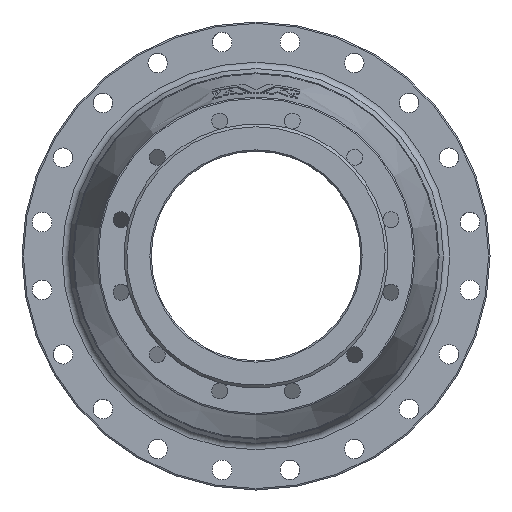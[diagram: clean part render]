
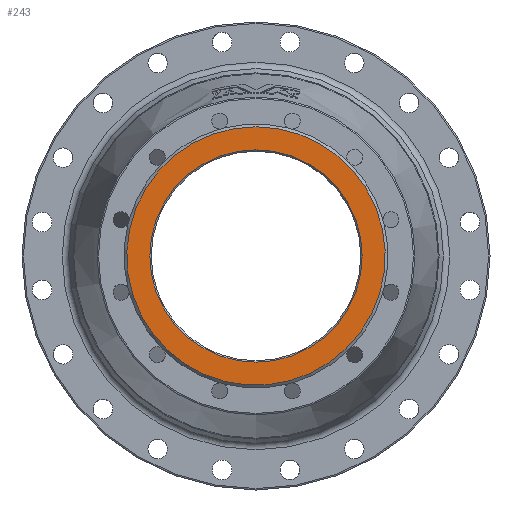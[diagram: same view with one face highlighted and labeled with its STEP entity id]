
A CAD part, left-side view. The second image highlights one B-rep face of the part: STEP entity #243.
In plain terms, the highlighted planar face has unit normal (-1, 0, 0).
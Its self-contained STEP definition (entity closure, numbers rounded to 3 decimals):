
#29 = CARTESIAN_POINT ( 'NONE',  ( 0., 150., 0. ) ) ;
#243 = ADVANCED_FACE ( 'NONE', ( #1078, #2167 ), #2476, .F. ) ;
#260 = CARTESIAN_POINT ( 'NONE',  ( 0., 0., 0. ) ) ;
#403 = AXIS2_PLACEMENT_3D ( 'NONE', #1267, #435, #3150 ) ;
#435 = DIRECTION ( 'NONE',  ( -1., 0., 0. ) ) ;
#814 = DIRECTION ( 'NONE',  ( 1., 0., 0. ) ) ;
#1066 = EDGE_LOOP ( 'NONE', ( #3235 ) ) ;
#1078 = FACE_BOUND ( 'NONE', #1066, .T. ) ;
#1119 = DIRECTION ( 'NONE',  ( 0., 0., -1. ) ) ;
#1146 = VERTEX_POINT ( 'NONE', #1365 ) ;
#1267 = CARTESIAN_POINT ( 'NONE',  ( 0., 0., 0. ) ) ;
#1365 = CARTESIAN_POINT ( 'NONE',  ( 0., 0., -152. ) ) ;
#1497 = CARTESIAN_POINT ( 'NONE',  ( 0., 0., 185. ) ) ;
#1504 = EDGE_CURVE ( 'NONE', #1146, #1146, #3271, .T. ) ;
#1649 = DIRECTION ( 'NONE',  ( 0., 0., -1. ) ) ;
#1690 = EDGE_LOOP ( 'NONE', ( #2907 ) ) ;
#1850 = AXIS2_PLACEMENT_3D ( 'NONE', #29, #814, #1119 ) ;
#1886 = DIRECTION ( 'NONE',  ( 1., 0., 0. ) ) ;
#2167 = FACE_OUTER_BOUND ( 'NONE', #1690, .T. ) ;
#2174 = CIRCLE ( 'NONE', #403, 185. ) ;
#2201 = AXIS2_PLACEMENT_3D ( 'NONE', #260, #1886, #1649 ) ;
#2476 = PLANE ( 'NONE',  #1850 ) ;
#2625 = EDGE_CURVE ( 'NONE', #3083, #3083, #2174, .T. ) ;
#2907 = ORIENTED_EDGE ( 'NONE', *, *, #2625, .T. ) ;
#3083 = VERTEX_POINT ( 'NONE', #1497 ) ;
#3150 = DIRECTION ( 'NONE',  ( 0., 0., 1. ) ) ;
#3235 = ORIENTED_EDGE ( 'NONE', *, *, #1504, .T. ) ;
#3271 = CIRCLE ( 'NONE', #2201, 152. ) ;
